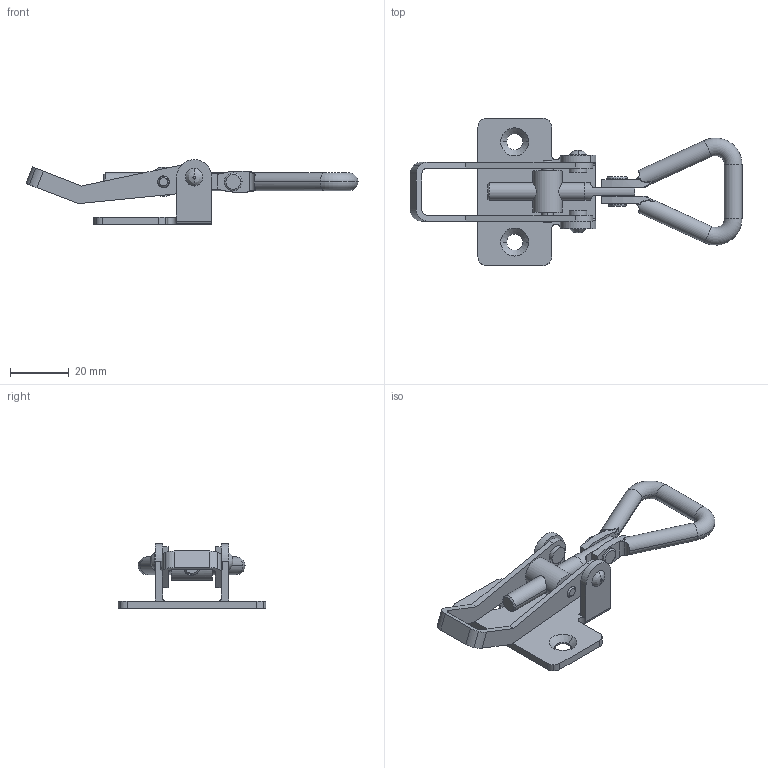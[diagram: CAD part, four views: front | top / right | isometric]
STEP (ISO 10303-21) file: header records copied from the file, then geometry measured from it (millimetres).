
FILE_DESCRIPTION((''),'2;1');
FILE_NAME('3016.stp','2011-09-06T11:15:20',(''),(''),'Mechanical Desktop 2006','Mechanical Desktop 2006',', , ');
FILE_SCHEMA(('CONFIG_CONTROL_DESIGN'));
Length unit declared in the file: millimetre
Products named in the file (10): 3016 ; TEIL2; TEIL9; HANDBET.B20; BOLZ.M6; NITE; ~~TEIL1; BÜGEL; ~~~TEIL1; ~~TEIL2
Assembly tree (10 placements, depth 2):
  3016 
    TEIL2
    TEIL9
    HANDBET.B20
    BOLZ.M6
    NITE  x2
    ~~TEIL1
    BÜGEL
    ~~~TEIL1
    ~~TEIL2
Bounding box: 112.64 x 50 x 21.99 mm (x, y, z)
Volume: 12330.6 mm3; surface area: 11857.7 mm2
Topology: 8 solids, 8 shells, 196 faces, 511 edges, 332 vertices
Faces by surface type: cylinder 102, plane 58, bspline 18, cone 10, torus 8
Entity records: 9302 total; most frequent: CARTESIAN_POINT 4466, ORIENTED_EDGE 974, DIRECTION 972, EDGE_CURVE 487, AXIS2_PLACEMENT_3D 390, VERTEX_POINT 319, EDGE_LOOP 214, CIRCLE 201
